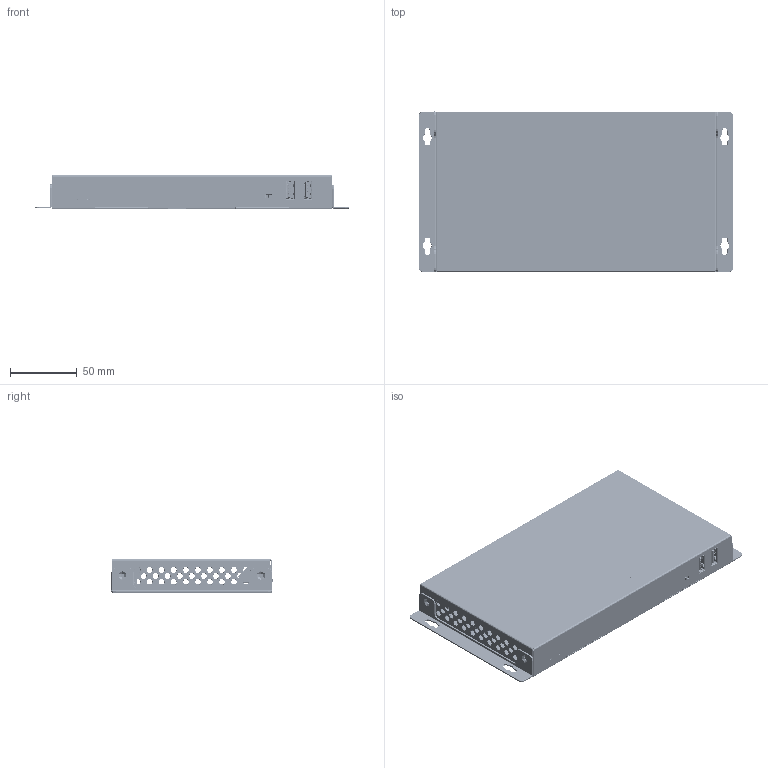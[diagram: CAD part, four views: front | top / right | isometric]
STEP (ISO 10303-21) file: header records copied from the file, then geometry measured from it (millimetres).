
FILE_DESCRIPTION((''),'2;1');
FILE_NAME('VERSA120D_ASM','2025-01-21T22:27:54',('JEFF'),(''),'CREO PARAMETRIC BY PTC INC, 2022164','CREO PARAMETRIC BY PTC INC, 2022164','');
FILE_SCHEMA(('CONFIG_CONTROL_DESIGN'));
Products named in the file (3): VERSA_120D; RACKEAR; VERSA120D_ASM
Assembly tree (3 placements, depth 2):
  VERSA120D_ASM
    VERSA_120D
    RACKEAR  x2
Bounding box: 235 x 120.45 x 25 mm (x, y, z)
Topology: 205 solids, 274 shells, 19466 faces, 48454 edges, 29156 vertices
Faces by surface type: plane 6298, extrusion 4995, bspline 4133, cylinder 3540, torus 255, sphere 152, cone 93
Entity records: 788630 total; most frequent: CARTESIAN_POINT 378950, ORIENTED_EDGE 94213, DIRECTION 63149, EDGE_CURVE 47924, VECTOR 29765, VERTEX_POINT 28965, LINE 24772, B_SPLINE_CURVE_WITH_KNOTS 21655
